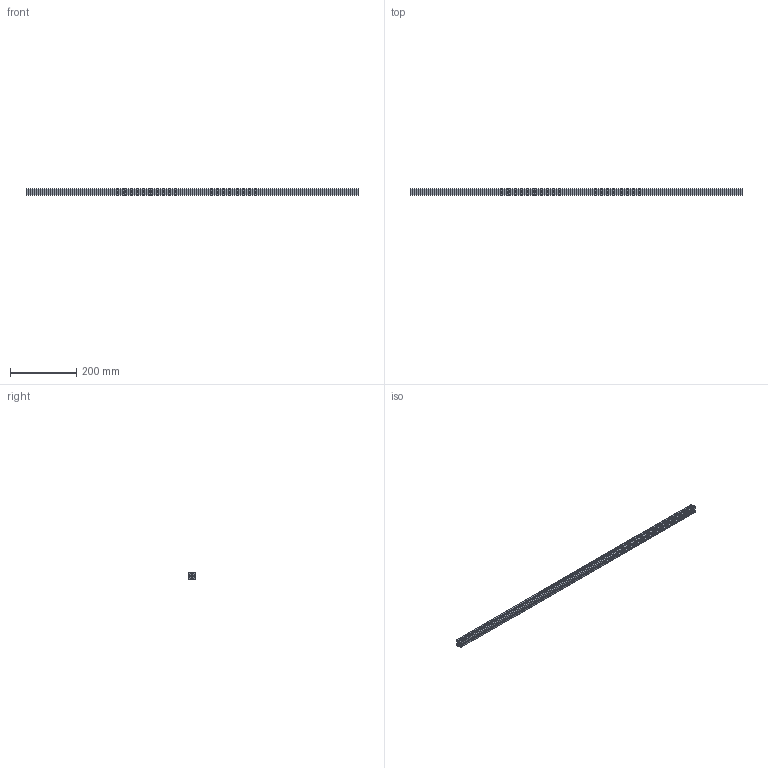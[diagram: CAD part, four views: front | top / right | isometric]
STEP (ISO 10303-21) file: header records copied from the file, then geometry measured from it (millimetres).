
FILE_DESCRIPTION (( 'STEP AP203' ), '1' );
FILE_NAME ('10405_PRO_20x20.STEP', '2016-03-02T13:09:16', ( '' ), ( '' ), 'SwSTEP 2.0', 'SolidWorks 2015', '' );
FILE_SCHEMA (( 'CONFIG_CONTROL_DESIGN' ));
Length unit declared in the file: millimetre
Products named in the file (1): 10405_PRO_20x20
Bounding box: 1000 x 20 x 20 mm (x, y, z)
Volume: 180731.8 mm3; surface area: 169964 mm2
Topology: 1 solids, 1 shells, 78 faces, 228 edges, 152 vertices
Faces by surface type: cylinder 40, plane 38
Entity records: 2693 total; most frequent: DIRECTION 466, CARTESIAN_POINT 459, ORIENTED_EDGE 456, EDGE_CURVE 228, AXIS2_PLACEMENT_3D 159, VERTEX_POINT 152, LINE 148, VECTOR 148
